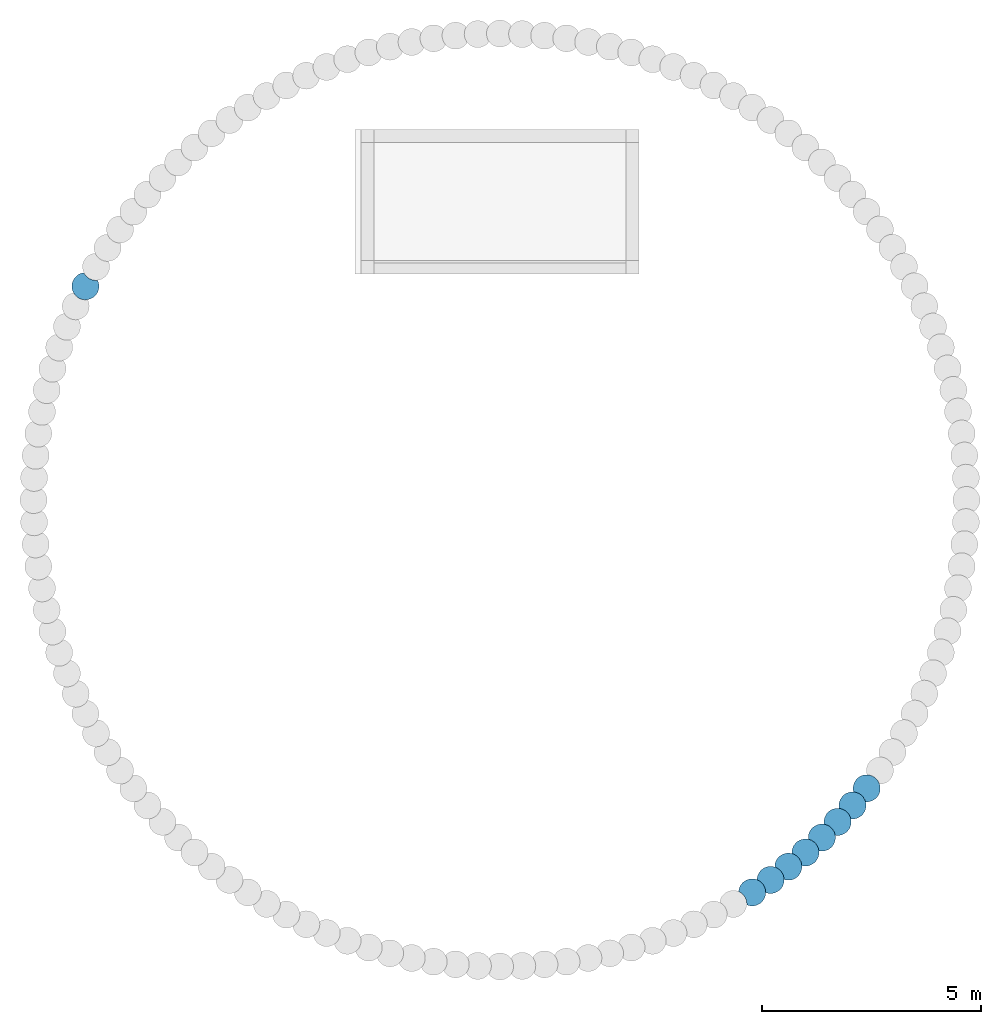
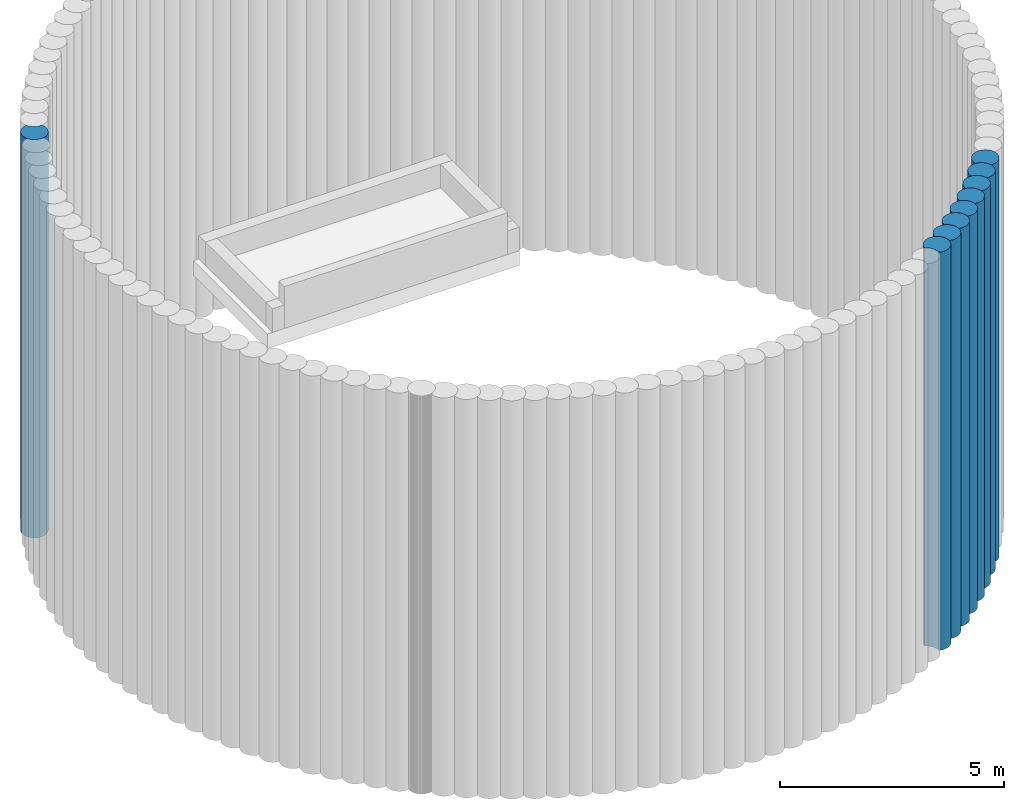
# One storey, part 7 of 16: 9 slabs.
"""IFC2X3 building model written with IfcOpenShell, lengths in centimetres."""

from ifc_helpers import new_model, entity, si_unit, converted_unit, derived_unit, direction, frame, frame_2d, origin, place, context, subcontext, project, spatial, polyline, circle_curve, parameter, trimmed, segment, composite_curve, outline, extrude, material, element, save


model = new_model("IFC2X3")

# Units and contexts
model_context = context("Model", 3, precision=0.001, world=origin(), true_north=direction((6.12303176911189e-17, 1.0)))
body_context = subcontext(model_context, "Body", "Model", "MODEL_VIEW")
ifc_project = project(units=[si_unit("LENGTHUNIT", "METRE", prefix="CENTI"), si_unit("AREAUNIT", "SQUARE_METRE"), si_unit("VOLUMEUNIT", "CUBIC_METRE"), converted_unit("PLANEANGLEUNIT", "DEGREE", entity("IfcRatioMeasure", 0.0174532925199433), si_unit("PLANEANGLEUNIT", "RADIAN"), dimensions=[0, 0, 0, 0, 0, 0, 0]), si_unit("MASSUNIT", "GRAM", prefix="KILO"), derived_unit("MASSDENSITYUNIT", [(si_unit("MASSUNIT", "GRAM", prefix="KILO"), 1), (si_unit("LENGTHUNIT", "METRE"), -3)]), si_unit("TIMEUNIT", "SECOND"), si_unit("FREQUENCYUNIT", "HERTZ"), si_unit("THERMODYNAMICTEMPERATUREUNIT", "DEGREE_CELSIUS"), derived_unit("THERMALTRANSMITTANCEUNIT", [(si_unit("MASSUNIT", "GRAM", prefix="KILO"), 1), (si_unit("THERMODYNAMICTEMPERATUREUNIT", "KELVIN"), -1), (si_unit("TIMEUNIT", "SECOND"), -3)]), derived_unit("VOLUMETRICFLOWRATEUNIT", [(si_unit("LENGTHUNIT", "METRE"), 3), (si_unit("TIMEUNIT", "SECOND"), -1)]), si_unit("ELECTRICCURRENTUNIT", "AMPERE"), si_unit("ELECTRICVOLTAGEUNIT", "VOLT"), si_unit("POWERUNIT", "WATT"), si_unit("FORCEUNIT", "NEWTON", prefix="KILO"), si_unit("ILLUMINANCEUNIT", "LUX"), si_unit("LUMINOUSFLUXUNIT", "LUMEN"), si_unit("LUMINOUSINTENSITYUNIT", "CANDELA"), derived_unit("USERDEFINED", [(si_unit("MASSUNIT", "GRAM", prefix="KILO"), -1), (si_unit("LENGTHUNIT", "METRE"), -2), (si_unit("TIMEUNIT", "SECOND"), 3), (si_unit("LUMINOUSFLUXUNIT", "LUMEN"), 1)]), derived_unit("LINEARVELOCITYUNIT", [(si_unit("LENGTHUNIT", "METRE"), 1), (si_unit("TIMEUNIT", "SECOND"), -1)]), si_unit("PRESSUREUNIT", "PASCAL"), derived_unit("USERDEFINED", [(si_unit("LENGTHUNIT", "METRE"), -2), (si_unit("MASSUNIT", "GRAM", prefix="KILO"), 1), (si_unit("TIMEUNIT", "SECOND"), -2)])], contexts=[model_context])

# Site, building, storey
site_placement = place(None, origin())
site = spatial("IfcSite", under=ifc_project, at=site_placement, Name="Default", CompositionType="ELEMENT")
building_placement = place(site_placement, origin())
building = spatial("IfcBuilding", under=site, at=building_placement, CompositionType="ELEMENT")
storey_placement = place(building_placement, frame((0.0, 0.0, -984.0)))
storey = spatial("IfcBuildingStorey", under=building, at=storey_placement, Name="Niveau Fond de fosse", CompositionType="ELEMENT", Elevation=-984.000000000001)

# Slabs
ifc_material = material(Name="Maçonnerie - Béton coulé sur place")
slab_1_placement = place(storey_placement, origin())
element("IfcSlab", 1, at=slab_1_placement, inside=storey, material=ifc_material, Name="Pieu béton - JBTP:600mm 2", ObjectType="Pieu béton - JBTP:600mm 2", PredefinedType="BASESLAB", context=body_context, shape_type="SweptSolid", body=[
    extrude(outline(composite_curve([segment(trimmed(circle_curve(frame_2d((1.18354648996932, -14.7318661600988), x_axis=(1.0, 0.0)), 30.9999999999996), [parameter(180.0)], [parameter(207.444291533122)], True, "PARAMETER"), True, "CONTINUOUS"), segment(trimmed(circle_curve(frame_2d((-22.2236636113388, -59.7464676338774), x_axis=(0.998867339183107, -0.047581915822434)), 30.9999999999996), [parameter(30.1715642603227)], [parameter(100.334884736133)], True, "PARAMETER"), False, "CONTINUOUS"), segment(trimmed(circle_curve(frame_2d((1.18354648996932, -14.7318661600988), x_axis=(1.0, 0.0)), 30.9999999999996), [parameter(277.607612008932)], [parameter(4.07110999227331e-13)], True, "PARAMETER"), True, "CONTINUOUS"), segment(polyline([(32.1835464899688, -14.7318661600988), (31.7068413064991, -9.31628922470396)]), True, "CONTINUOUS"), segment(polyline([(31.7068413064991, -9.31628922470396), (30.292145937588, -4.0693412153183)]), True, "CONTINUOUS"), segment(polyline([(30.292145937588, -4.0693412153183), (27.9815446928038, 0.850722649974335)]), True, "CONTINUOUS"), segment(polyline([(27.9815446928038, 0.850722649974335), (24.8625540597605, 5.27574740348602)]), True, "CONTINUOUS"), segment(polyline([(24.8625540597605, 5.27574740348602), (21.0196407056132, 9.09100869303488)]), True, "CONTINUOUS"), segment(polyline([(21.0196407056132, 9.09100869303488), (16.5713553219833, 12.1793831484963)]), True, "CONTINUOUS"), segment(polyline([(16.5713553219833, 12.1793831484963), (11.6531207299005, 14.4466878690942)]), True, "CONTINUOUS"), segment(polyline([(11.6531207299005, 14.4466878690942), (6.41465294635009, 15.8235838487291)]), True, "CONTINUOUS"), segment(polyline([(6.41465294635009, 15.8235838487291), (1.01547753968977, 16.2676782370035)]), True, "CONTINUOUS"), segment(polyline([(1.01547753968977, 16.2676782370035), (-4.38028118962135, 15.7646561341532)]), True, "CONTINUOUS"), segment(polyline([(-4.38028118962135, 15.7646561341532), (-9.56967916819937, 14.3433490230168)]), True, "CONTINUOUS"), segment(polyline([(-9.56967916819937, 14.3433490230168), (-14.4353628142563, 12.0459170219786)]), True, "CONTINUOUS"), segment(polyline([(-14.4353628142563, 12.0459170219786), (-18.8300295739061, 8.94210209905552)]), True, "CONTINUOUS"), segment(polyline([(-18.8300295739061, 8.94210209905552), (-22.6217091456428, 5.12536940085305)]), True, "CONTINUOUS"), segment(polyline([(-22.6217091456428, 5.12536940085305), (-25.6964633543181, 0.710448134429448)]), True, "CONTINUOUS"), segment(polyline([(-25.6964633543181, 0.710448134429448), (-27.9617477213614, -4.170056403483)]), True, "CONTINUOUS"), segment(polyline([(-27.9617477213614, -4.170056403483), (-29.3490361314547, -9.36890070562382)]), True, "CONTINUOUS"), segment(polyline([(-29.3490361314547, -9.36890070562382), (-29.8164535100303, -14.7318661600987)]), True, "CONTINUOUS")], self_intersect=False)), frame((582.933559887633, -883.557694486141, -300.0), z_axis=(0.0, 0.0, 1.0), x_axis=(0.85570479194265, -0.517464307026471, 0.0)), (0.0, 0.0, 1.0), 1084.0),
])
slab_2_placement = place(storey_placement, origin())
element("IfcSlab", 2, at=slab_2_placement, inside=storey, material=ifc_material, Name="Pieu béton - JBTP:600mm 2", ObjectType="Pieu béton - JBTP:600mm 2", PredefinedType="BASESLAB", context=body_context, shape_type="SweptSolid", body=[
    extrude(outline(composite_curve([segment(trimmed(circle_curve(frame_2d((1.18354648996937, -14.731866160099), x_axis=(1.0, 0.0)), 30.9999999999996), [parameter(180.0)], [parameter(207.444291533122)], True, "PARAMETER"), True, "CONTINUOUS"), segment(trimmed(circle_curve(frame_2d((-22.2236636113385, -59.7464676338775), x_axis=(0.99886733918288, -0.047581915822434)), 30.9999999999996), [parameter(30.1715642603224)], [parameter(100.334884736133)], True, "PARAMETER"), False, "CONTINUOUS"), segment(trimmed(circle_curve(frame_2d((1.18354648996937, -14.731866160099), x_axis=(1.0, 0.0)), 30.9999999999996), [parameter(277.607612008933)], [parameter(4.07110999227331e-13)], True, "PARAMETER"), True, "CONTINUOUS"), segment(polyline([(32.1835464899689, -14.731866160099), (31.7068413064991, -9.31628922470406)]), True, "CONTINUOUS"), segment(polyline([(31.7068413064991, -9.31628922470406), (30.2921459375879, -4.06934121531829)]), True, "CONTINUOUS"), segment(polyline([(30.2921459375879, -4.06934121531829), (27.9815446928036, 0.850722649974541)]), True, "CONTINUOUS"), segment(polyline([(27.9815446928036, 0.850722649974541), (24.8625540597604, 5.27574740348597)]), True, "CONTINUOUS"), segment(polyline([(24.8625540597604, 5.27574740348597), (21.0196407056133, 9.09100869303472)]), True, "CONTINUOUS"), segment(polyline([(21.0196407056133, 9.09100869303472), (16.5713553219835, 12.1793831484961)]), True, "CONTINUOUS"), segment(polyline([(16.5713553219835, 12.1793831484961), (11.6531207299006, 14.4466878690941)]), True, "CONTINUOUS"), segment(polyline([(11.6531207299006, 14.4466878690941), (6.41465294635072, 15.8235838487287)]), True, "CONTINUOUS"), segment(polyline([(6.41465294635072, 15.8235838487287), (1.01547753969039, 16.2676782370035)]), True, "CONTINUOUS"), segment(polyline([(1.01547753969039, 16.2676782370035), (-4.38028118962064, 15.7646561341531)]), True, "CONTINUOUS"), segment(polyline([(-4.38028118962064, 15.7646561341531), (-9.56967916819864, 14.3433490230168)]), True, "CONTINUOUS"), segment(polyline([(-9.56967916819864, 14.3433490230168), (-14.4353628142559, 12.0459170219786)]), True, "CONTINUOUS"), segment(polyline([(-14.4353628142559, 12.0459170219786), (-18.8300295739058, 8.94210209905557)]), True, "CONTINUOUS"), segment(polyline([(-18.8300295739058, 8.94210209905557), (-22.6217091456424, 5.12536940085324)]), True, "CONTINUOUS"), segment(polyline([(-22.6217091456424, 5.12536940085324), (-25.6964633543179, 0.710448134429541)]), True, "CONTINUOUS"), segment(polyline([(-25.6964633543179, 0.710448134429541), (-27.9617477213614, -4.17005640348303)]), True, "CONTINUOUS"), segment(polyline([(-27.9617477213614, -4.17005640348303), (-29.3490361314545, -9.36890070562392)]), True, "CONTINUOUS"), segment(polyline([(-29.3490361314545, -9.36890070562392), (-29.8164535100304, -14.7318661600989)]), True, "CONTINUOUS")], self_intersect=False)), frame((624.314661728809, -854.819827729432, -300.0), z_axis=(0.0, 0.0, 1.0), x_axis=(0.879357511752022, -0.476162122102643, 0.0)), (0.0, 0.0, 1.0), 1084.0),
])
slab_3_placement = place(storey_placement, origin())
element("IfcSlab", 3, at=slab_3_placement, inside=storey, material=ifc_material, Name="Pieu béton - JBTP:600mm 2", ObjectType="Pieu béton - JBTP:600mm 2", PredefinedType="BASESLAB", context=body_context, shape_type="SweptSolid", body=[
    extrude(outline(composite_curve([segment(trimmed(circle_curve(frame_2d((1.18354648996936, -14.7318661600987), x_axis=(1.0, 0.0)), 30.9999999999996), [parameter(180.0)], [parameter(207.444291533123)], True, "PARAMETER"), True, "CONTINUOUS"), segment(trimmed(circle_curve(frame_2d((-22.2236636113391, -59.7464676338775), x_axis=(0.998867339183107, -0.0475819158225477)), 30.9999999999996), [parameter(30.1715642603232)], [parameter(100.334884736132)], True, "PARAMETER"), False, "CONTINUOUS"), segment(trimmed(circle_curve(frame_2d((1.18354648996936, -14.7318661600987), x_axis=(1.0, 0.0)), 30.9999999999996), [parameter(277.607612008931)], [parameter(4.07110999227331e-13)], True, "PARAMETER"), True, "CONTINUOUS"), segment(polyline([(32.1835464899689, -14.7318661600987), (31.7068413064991, -9.31628922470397)]), True, "CONTINUOUS"), segment(polyline([(31.7068413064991, -9.31628922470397), (30.2921459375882, -4.06934121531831)]), True, "CONTINUOUS"), segment(polyline([(30.2921459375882, -4.06934121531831), (27.9815446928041, 0.850722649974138)]), True, "CONTINUOUS"), segment(polyline([(27.9815446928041, 0.850722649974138), (24.8625540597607, 5.27574740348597)]), True, "CONTINUOUS"), segment(polyline([(24.8625540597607, 5.27574740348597), (21.0196407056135, 9.09100869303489)]), True, "CONTINUOUS"), segment(polyline([(21.0196407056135, 9.09100869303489), (16.5713553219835, 12.1793831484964)]), True, "CONTINUOUS"), segment(polyline([(16.5713553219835, 12.1793831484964), (11.6531207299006, 14.4466878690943)]), True, "CONTINUOUS"), segment(polyline([(11.6531207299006, 14.4466878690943), (6.4146529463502, 15.8235838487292)]), True, "CONTINUOUS"), segment(polyline([(6.4146529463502, 15.8235838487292), (1.01547753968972, 16.2676782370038)]), True, "CONTINUOUS"), segment(polyline([(1.01547753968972, 16.2676782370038), (-4.38028118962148, 15.7646561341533)]), True, "CONTINUOUS"), segment(polyline([(-4.38028118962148, 15.7646561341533), (-9.56967916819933, 14.3433490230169)]), True, "CONTINUOUS"), segment(polyline([(-9.56967916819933, 14.3433490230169), (-14.4353628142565, 12.0459170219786)]), True, "CONTINUOUS"), segment(polyline([(-14.4353628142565, 12.0459170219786), (-18.8300295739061, 8.94210209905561)]), True, "CONTINUOUS"), segment(polyline([(-18.8300295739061, 8.94210209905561), (-22.6217091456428, 5.12536940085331)]), True, "CONTINUOUS"), segment(polyline([(-22.6217091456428, 5.12536940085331), (-25.696463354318, 0.710448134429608)]), True, "CONTINUOUS"), segment(polyline([(-25.696463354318, 0.710448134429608), (-27.9617477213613, -4.1700564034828)]), True, "CONTINUOUS"), segment(polyline([(-27.9617477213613, -4.1700564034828), (-29.3490361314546, -9.36890070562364)]), True, "CONTINUOUS"), segment(polyline([(-29.3490361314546, -9.36890070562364), (-29.8164535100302, -14.7318661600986)]), True, "CONTINUOUS")], self_intersect=False)), frame((664.281490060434, -824.145519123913, -300.0), z_axis=(0.0, 0.0, 1.0), x_axis=(0.901018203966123, -0.433781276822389, 0.0)), (0.0, 0.0, 1.0), 1084.0),
])
slab_4_placement = place(storey_placement, origin())
element("IfcSlab", 4, at=slab_4_placement, inside=storey, material=ifc_material, Name="Pieu béton - JBTP:600mm 2", ObjectType="Pieu béton - JBTP:600mm 2", PredefinedType="BASESLAB", context=body_context, shape_type="SweptSolid", body=[
    extrude(outline(composite_curve([segment(trimmed(circle_curve(frame_2d((1.18354648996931, -14.7318661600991), x_axis=(1.0, 0.0)), 30.9999999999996), [parameter(180.0)], [parameter(207.444291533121)], True, "PARAMETER"), True, "CONTINUOUS"), segment(trimmed(circle_curve(frame_2d((-22.2236636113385, -59.7464676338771), x_axis=(0.998867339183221, -0.0475819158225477)), 30.9999999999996), [parameter(30.1715642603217)], [parameter(100.334884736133)], True, "PARAMETER"), False, "CONTINUOUS"), segment(trimmed(circle_curve(frame_2d((1.18354648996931, -14.7318661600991), x_axis=(1.0, 0.0)), 30.9999999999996), [parameter(277.607612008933)], [parameter(4.07110999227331e-13)], True, "PARAMETER"), True, "CONTINUOUS"), segment(polyline([(32.1835464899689, -14.7318661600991), (31.7068413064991, -9.31628922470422)]), True, "CONTINUOUS"), segment(polyline([(31.7068413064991, -9.31628922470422), (30.2921459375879, -4.06934121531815)]), True, "CONTINUOUS"), segment(polyline([(30.2921459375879, -4.06934121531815), (27.9815446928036, 0.85072264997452)]), True, "CONTINUOUS"), segment(polyline([(27.9815446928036, 0.85072264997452), (24.8625540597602, 5.27574740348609)]), True, "CONTINUOUS"), segment(polyline([(24.8625540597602, 5.27574740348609), (21.0196407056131, 9.09100869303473)]), True, "CONTINUOUS"), segment(polyline([(21.0196407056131, 9.09100869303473), (16.5713553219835, 12.1793831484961)]), True, "CONTINUOUS"), segment(polyline([(16.5713553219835, 12.1793831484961), (11.6531207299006, 14.446687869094)]), True, "CONTINUOUS"), segment(polyline([(11.6531207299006, 14.446687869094), (6.41465294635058, 15.8235838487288)]), True, "CONTINUOUS"), segment(polyline([(6.41465294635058, 15.8235838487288), (1.01547753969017, 16.2676782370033)]), True, "CONTINUOUS"), segment(polyline([(1.01547753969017, 16.2676782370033), (-4.38028118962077, 15.764656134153)]), True, "CONTINUOUS"), segment(polyline([(-4.38028118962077, 15.764656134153), (-9.56967916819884, 14.3433490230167)]), True, "CONTINUOUS"), segment(polyline([(-9.56967916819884, 14.3433490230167), (-14.435362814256, 12.0459170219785)]), True, "CONTINUOUS"), segment(polyline([(-14.435362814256, 12.0459170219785), (-18.8300295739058, 8.94210209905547)]), True, "CONTINUOUS"), segment(polyline([(-18.8300295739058, 8.94210209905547), (-22.6217091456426, 5.12536940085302)]), True, "CONTINUOUS"), segment(polyline([(-22.6217091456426, 5.12536940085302), (-25.6964633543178, 0.710448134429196)]), True, "CONTINUOUS"), segment(polyline([(-25.6964633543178, 0.710448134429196), (-27.9617477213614, -4.1700564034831)]), True, "CONTINUOUS"), segment(polyline([(-27.9617477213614, -4.1700564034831), (-29.3490361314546, -9.36890070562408)]), True, "CONTINUOUS"), segment(polyline([(-29.3490361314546, -9.36890070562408), (-29.8164535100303, -14.7318661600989)]), True, "CONTINUOUS")], self_intersect=False)), frame((702.743507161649, -791.604255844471, -300.0), z_axis=(0.0, 0.0, 1.0), x_axis=(0.920637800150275, -0.390417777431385, 0.0)), (0.0, 0.0, 1.0), 1084.0),
])
slab_5_placement = place(storey_placement, origin())
element("IfcSlab", 5, at=slab_5_placement, inside=storey, material=ifc_material, Name="Pieu béton - JBTP:600mm 2", ObjectType="Pieu béton - JBTP:600mm 2", PredefinedType="BASESLAB", context=body_context, shape_type="SweptSolid", body=[
    extrude(outline(composite_curve([segment(trimmed(circle_curve(frame_2d((1.1835464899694, -14.7318661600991), x_axis=(1.0, 0.0)), 30.9999999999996), [parameter(180.0)], [parameter(207.444291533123)], True, "PARAMETER"), True, "CONTINUOUS"), segment(trimmed(circle_curve(frame_2d((-22.2236636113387, -59.7464676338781), x_axis=(0.998867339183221, -0.0475819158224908)), 30.9999999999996), [parameter(30.1715642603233)], [parameter(100.334884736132)], True, "PARAMETER"), False, "CONTINUOUS"), segment(trimmed(circle_curve(frame_2d((1.1835464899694, -14.7318661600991), x_axis=(1.0, 0.0)), 30.9999999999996), [parameter(277.607612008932)], [parameter(4.07110999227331e-13)], True, "PARAMETER"), True, "CONTINUOUS"), segment(polyline([(32.1835464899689, -14.7318661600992), (31.7068413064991, -9.31628922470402)]), True, "CONTINUOUS"), segment(polyline([(31.7068413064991, -9.31628922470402), (30.2921459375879, -4.06934121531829)]), True, "CONTINUOUS"), segment(polyline([(30.2921459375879, -4.06934121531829), (27.9815446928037, 0.850722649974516)]), True, "CONTINUOUS"), segment(polyline([(27.9815446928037, 0.850722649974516), (24.8625540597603, 5.2757474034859)]), True, "CONTINUOUS"), segment(polyline([(24.8625540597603, 5.2757474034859), (21.0196407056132, 9.09100869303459)]), True, "CONTINUOUS"), segment(polyline([(21.0196407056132, 9.09100869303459), (16.5713553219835, 12.1793831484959)]), True, "CONTINUOUS"), segment(polyline([(16.5713553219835, 12.1793831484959), (11.6531207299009, 14.446687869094)]), True, "CONTINUOUS"), segment(polyline([(11.6531207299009, 14.446687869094), (6.41465294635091, 15.8235838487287)]), True, "CONTINUOUS"), segment(polyline([(6.41465294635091, 15.8235838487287), (1.01547753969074, 16.2676782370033)]), True, "CONTINUOUS"), segment(polyline([(1.01547753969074, 16.2676782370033), (-4.38028118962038, 15.7646561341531)]), True, "CONTINUOUS"), segment(polyline([(-4.38028118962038, 15.7646561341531), (-9.56967916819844, 14.3433490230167)]), True, "CONTINUOUS"), segment(polyline([(-9.56967916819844, 14.3433490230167), (-14.4353628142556, 12.0459170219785)]), True, "CONTINUOUS"), segment(polyline([(-14.4353628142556, 12.0459170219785), (-18.8300295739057, 8.9421020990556)]), True, "CONTINUOUS"), segment(polyline([(-18.8300295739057, 8.9421020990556), (-22.6217091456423, 5.12536940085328)]), True, "CONTINUOUS"), segment(polyline([(-22.6217091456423, 5.12536940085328), (-25.6964633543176, 0.710448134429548)]), True, "CONTINUOUS"), segment(polyline([(-25.6964633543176, 0.710448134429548), (-27.9617477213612, -4.17005640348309)]), True, "CONTINUOUS"), segment(polyline([(-27.9617477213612, -4.17005640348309), (-29.3490361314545, -9.36890070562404)]), True, "CONTINUOUS"), segment(polyline([(-29.3490361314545, -9.36890070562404), (-29.8164535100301, -14.731866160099)]), True, "CONTINUOUS")], self_intersect=False)), frame((739.613584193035, -757.269754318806, -300.0), z_axis=(0.0, 0.0, 1.0), x_axis=(0.938171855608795, -0.34616985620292, 0.0)), (0.0, 0.0, 1.0), 1084.0),
])
slab_6_placement = place(storey_placement, origin())
element("IfcSlab", 6, at=slab_6_placement, inside=storey, material=ifc_material, Name="Pieu béton - JBTP:600mm 2", ObjectType="Pieu béton - JBTP:600mm 2", PredefinedType="BASESLAB", context=body_context, shape_type="SweptSolid", body=[
    extrude(outline(composite_curve([segment(trimmed(circle_curve(frame_2d((1.18354648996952, -14.7318661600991), x_axis=(1.0, 0.0)), 30.9999999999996), [parameter(180.0)], [parameter(207.444291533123)], True, "PARAMETER"), True, "CONTINUOUS"), segment(trimmed(circle_curve(frame_2d((-22.223663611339, -59.7464676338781), x_axis=(0.998867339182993, -0.0475819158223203)), 30.9999999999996), [parameter(30.1715642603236)], [parameter(100.334884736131)], True, "PARAMETER"), False, "CONTINUOUS"), segment(trimmed(circle_curve(frame_2d((1.18354648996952, -14.7318661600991), x_axis=(1.0, 0.0)), 30.9999999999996), [parameter(277.607612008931)], [parameter(4.07110999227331e-13)], True, "PARAMETER"), True, "CONTINUOUS"), segment(polyline([(32.183546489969, -14.731866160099), (31.7068413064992, -9.31628922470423)]), True, "CONTINUOUS"), segment(polyline([(31.7068413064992, -9.31628922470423), (30.2921459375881, -4.06934121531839)]), True, "CONTINUOUS"), segment(polyline([(30.2921459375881, -4.06934121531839), (27.981544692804, 0.85072264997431)]), True, "CONTINUOUS"), segment(polyline([(27.981544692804, 0.85072264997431), (24.8625540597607, 5.27574740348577)]), True, "CONTINUOUS"), segment(polyline([(24.8625540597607, 5.27574740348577), (21.0196407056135, 9.09100869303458)]), True, "CONTINUOUS"), segment(polyline([(21.0196407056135, 9.09100869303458), (16.5713553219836, 12.179383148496)]), True, "CONTINUOUS"), segment(polyline([(16.5713553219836, 12.179383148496), (11.653120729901, 14.446687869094)]), True, "CONTINUOUS"), segment(polyline([(11.653120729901, 14.446687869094), (6.41465294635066, 15.8235838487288)]), True, "CONTINUOUS"), segment(polyline([(6.41465294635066, 15.8235838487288), (1.01547753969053, 16.2676782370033)]), True, "CONTINUOUS"), segment(polyline([(1.01547753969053, 16.2676782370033), (-4.38028118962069, 15.7646561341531)]), True, "CONTINUOUS"), segment(polyline([(-4.38028118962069, 15.7646561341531), (-9.56967916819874, 14.3433490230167)]), True, "CONTINUOUS"), segment(polyline([(-9.56967916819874, 14.3433490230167), (-14.4353628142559, 12.0459170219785)]), True, "CONTINUOUS"), segment(polyline([(-14.4353628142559, 12.0459170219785), (-18.8300295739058, 8.94210209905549)]), True, "CONTINUOUS"), segment(polyline([(-18.8300295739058, 8.94210209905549), (-22.6217091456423, 5.12536940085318)]), True, "CONTINUOUS"), segment(polyline([(-22.6217091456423, 5.12536940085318), (-25.6964633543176, 0.71044813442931)]), True, "CONTINUOUS"), segment(polyline([(-25.6964633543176, 0.71044813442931), (-27.9617477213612, -4.17005640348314)]), True, "CONTINUOUS"), segment(polyline([(-27.9617477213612, -4.17005640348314), (-29.3490361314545, -9.36890070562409)]), True, "CONTINUOUS"), segment(polyline([(-29.3490361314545, -9.36890070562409), (-29.8164535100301, -14.7318661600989)]), True, "CONTINUOUS")], self_intersect=False)), frame((774.808198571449, -721.219793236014, -300.0), z_axis=(0.0, 0.0, 1.0), x_axis=(0.953580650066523, -0.301137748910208, 0.0)), (0.0, 0.0, 1.0), 1084.0),
])
slab_7_placement = place(storey_placement, origin())
element("IfcSlab", 7, at=slab_7_placement, inside=storey, material=ifc_material, Name="Pieu béton - JBTP:600mm 2", ObjectType="Pieu béton - JBTP:600mm 2", PredefinedType="BASESLAB", context=body_context, shape_type="SweptSolid", body=[
    extrude(outline(composite_curve([segment(trimmed(circle_curve(frame_2d((1.18354648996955, -14.7318661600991), x_axis=(1.0, 0.0)), 30.9999999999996), [parameter(180.0)], [parameter(207.444291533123)], True, "PARAMETER"), True, "CONTINUOUS"), segment(trimmed(circle_curve(frame_2d((-22.2236636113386, -59.7464676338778), x_axis=(0.998867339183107, -0.047581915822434)), 30.9999999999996), [parameter(30.1715642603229)], [parameter(100.334884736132)], True, "PARAMETER"), False, "CONTINUOUS"), segment(trimmed(circle_curve(frame_2d((1.18354648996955, -14.7318661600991), x_axis=(1.0, 0.0)), 30.9999999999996), [parameter(277.607612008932)], [parameter(4.07110999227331e-13)], True, "PARAMETER"), True, "CONTINUOUS"), segment(polyline([(32.1835464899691, -14.731866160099), (31.7068413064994, -9.31628922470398)]), True, "CONTINUOUS"), segment(polyline([(31.7068413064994, -9.31628922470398), (30.2921459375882, -4.06934121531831)]), True, "CONTINUOUS"), segment(polyline([(30.2921459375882, -4.06934121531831), (27.9815446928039, 0.850722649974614)]), True, "CONTINUOUS"), segment(polyline([(27.9815446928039, 0.850722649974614), (24.8625540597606, 5.27574740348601)]), True, "CONTINUOUS"), segment(polyline([(24.8625540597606, 5.27574740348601), (21.0196407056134, 9.0910086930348)]), True, "CONTINUOUS"), segment(polyline([(21.0196407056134, 9.0910086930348), (16.5713553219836, 12.1793831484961)]), True, "CONTINUOUS"), segment(polyline([(16.5713553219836, 12.1793831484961), (11.6531207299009, 14.446687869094)]), True, "CONTINUOUS"), segment(polyline([(11.6531207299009, 14.446687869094), (6.41465294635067, 15.8235838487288)]), True, "CONTINUOUS"), segment(polyline([(6.41465294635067, 15.8235838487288), (1.01547753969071, 16.2676782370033)]), True, "CONTINUOUS"), segment(polyline([(1.01547753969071, 16.2676782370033), (-4.38028118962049, 15.7646561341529)]), True, "CONTINUOUS"), segment(polyline([(-4.38028118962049, 15.7646561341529), (-9.56967916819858, 14.3433490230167)]), True, "CONTINUOUS"), segment(polyline([(-9.56967916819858, 14.3433490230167), (-14.4353628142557, 12.0459170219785)]), True, "CONTINUOUS"), segment(polyline([(-14.4353628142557, 12.0459170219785), (-18.8300295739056, 8.94210209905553)]), True, "CONTINUOUS"), segment(polyline([(-18.8300295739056, 8.94210209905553), (-22.6217091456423, 5.12536940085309)]), True, "CONTINUOUS"), segment(polyline([(-22.6217091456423, 5.12536940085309), (-25.6964633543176, 0.710448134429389)]), True, "CONTINUOUS"), segment(polyline([(-25.6964633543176, 0.710448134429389), (-27.961747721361, -4.17005640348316)]), True, "CONTINUOUS"), segment(polyline([(-27.961747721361, -4.17005640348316), (-29.3490361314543, -9.36890070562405)]), True, "CONTINUOUS"), segment(polyline([(-29.3490361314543, -9.36890070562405), (-29.81645351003, -14.731866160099)]), True, "CONTINUOUS")], self_intersect=False)), frame((808.247623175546, -683.536037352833, -300.0), z_axis=(0.0, 0.0, 1.0), x_axis=(0.966829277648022, -0.255423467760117, 0.0)), (0.0, 0.0, 1.0), 1084.0),
])
slab_8_placement = place(storey_placement, origin())
element("IfcSlab", 8, at=slab_8_placement, inside=storey, material=ifc_material, Name="Pieu béton - JBTP:600mm 2", ObjectType="Pieu béton - JBTP:600mm 2", PredefinedType="BASESLAB", context=body_context, shape_type="SweptSolid", body=[
    extrude(outline(composite_curve([segment(trimmed(circle_curve(frame_2d((1.1835464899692, -14.7318661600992), x_axis=(1.0, 0.0)), 30.9999999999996), [parameter(180.0)], [parameter(207.444291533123)], True, "PARAMETER"), True, "CONTINUOUS"), segment(trimmed(circle_curve(frame_2d((-22.223663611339, -59.7464676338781), x_axis=(0.998867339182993, -0.0475819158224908)), 30.9999999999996), [parameter(30.1715642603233)], [parameter(100.334884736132)], True, "PARAMETER"), False, "CONTINUOUS"), segment(trimmed(circle_curve(frame_2d((1.1835464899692, -14.7318661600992), x_axis=(1.0, 0.0)), 30.9999999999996), [parameter(277.607612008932)], [parameter(4.07110999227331e-13)], True, "PARAMETER"), True, "CONTINUOUS"), segment(polyline([(32.1835464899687, -14.7318661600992), (31.706841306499, -9.31628922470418)]), True, "CONTINUOUS"), segment(polyline([(31.706841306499, -9.31628922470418), (30.2921459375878, -4.06934121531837)]), True, "CONTINUOUS"), segment(polyline([(30.2921459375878, -4.06934121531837), (27.9815446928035, 0.850722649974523)]), True, "CONTINUOUS"), segment(polyline([(27.9815446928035, 0.850722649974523), (24.8625540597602, 5.27574740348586)]), True, "CONTINUOUS"), segment(polyline([(24.8625540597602, 5.27574740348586), (21.0196407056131, 9.09100869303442)]), True, "CONTINUOUS"), segment(polyline([(21.0196407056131, 9.09100869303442), (16.5713553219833, 12.1793831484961)]), True, "CONTINUOUS"), segment(polyline([(16.5713553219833, 12.1793831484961), (11.6531207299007, 14.4466878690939)]), True, "CONTINUOUS"), segment(polyline([(11.6531207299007, 14.4466878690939), (6.41465294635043, 15.8235838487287)]), True, "CONTINUOUS"), segment(polyline([(6.41465294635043, 15.8235838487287), (1.0154775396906, 16.2676782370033)]), True, "CONTINUOUS"), segment(polyline([(1.0154775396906, 16.2676782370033), (-4.38028118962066, 15.764656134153)]), True, "CONTINUOUS"), segment(polyline([(-4.38028118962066, 15.764656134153), (-9.56967916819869, 14.3433490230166)]), True, "CONTINUOUS"), segment(polyline([(-9.56967916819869, 14.3433490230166), (-14.4353628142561, 12.0459170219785)]), True, "CONTINUOUS"), segment(polyline([(-14.4353628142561, 12.0459170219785), (-18.8300295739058, 8.94210209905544)]), True, "CONTINUOUS"), segment(polyline([(-18.8300295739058, 8.94210209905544), (-22.6217091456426, 5.12536940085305)]), True, "CONTINUOUS"), segment(polyline([(-22.6217091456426, 5.12536940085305), (-25.6964633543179, 0.71044813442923)]), True, "CONTINUOUS"), segment(polyline([(-25.6964633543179, 0.71044813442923), (-27.9617477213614, -4.17005640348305)]), True, "CONTINUOUS"), segment(polyline([(-27.9617477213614, -4.17005640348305), (-29.3490361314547, -9.36890070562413)]), True, "CONTINUOUS"), segment(polyline([(-29.3490361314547, -9.36890070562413), (-29.8164535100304, -14.7318661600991)]), True, "CONTINUOUS")], self_intersect=False)), frame((839.856106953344, -644.303852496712, -300.0), z_axis=(0.0, 0.0, 1.0), x_axis=(0.977887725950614, -0.209130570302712, 0.0)), (0.0, 0.0, 1.0), 1084.0),
])
slab_9_placement = place(storey_placement, origin())
element("IfcSlab", 9, at=slab_9_placement, inside=storey, material=ifc_material, Name="Pieu béton - JBTP:600mm 2", ObjectType="Pieu béton - JBTP:600mm 2", PredefinedType="BASESLAB", context=body_context, shape_type="SweptSolid", body=[
    extrude(outline(composite_curve([segment(trimmed(circle_curve(frame_2d((1.18354648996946, -14.7318661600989), x_axis=(1.0, 0.0)), 30.9999999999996), [parameter(180.0)], [parameter(207.444291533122)], True, "PARAMETER"), True, "CONTINUOUS"), segment(trimmed(circle_curve(frame_2d((-22.2236636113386, -59.7464676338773), x_axis=(0.998867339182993, -0.0475819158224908)), 30.9999999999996), [parameter(30.1715642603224)], [parameter(100.334884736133)], True, "PARAMETER"), False, "CONTINUOUS"), segment(trimmed(circle_curve(frame_2d((1.18354648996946, -14.7318661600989), x_axis=(1.0, 0.0)), 30.9999999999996), [parameter(277.607612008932)], [parameter(4.07110999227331e-13)], True, "PARAMETER"), True, "CONTINUOUS"), segment(polyline([(32.183546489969, -14.7318661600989), (31.7068413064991, -9.31628922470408)]), True, "CONTINUOUS"), segment(polyline([(31.7068413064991, -9.31628922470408), (30.2921459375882, -4.06934121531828)]), True, "CONTINUOUS"), segment(polyline([(30.2921459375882, -4.06934121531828), (27.981544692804, 0.850722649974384)]), True, "CONTINUOUS"), segment(polyline([(27.981544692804, 0.850722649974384), (24.8625540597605, 5.27574740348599)]), True, "CONTINUOUS"), segment(polyline([(24.8625540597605, 5.27574740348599), (21.0196407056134, 9.09100869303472)]), True, "CONTINUOUS"), segment(polyline([(21.0196407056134, 9.09100869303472), (16.5713553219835, 12.1793831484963)]), True, "CONTINUOUS"), segment(polyline([(16.5713553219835, 12.1793831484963), (11.6531207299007, 14.4466878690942)]), True, "CONTINUOUS"), segment(polyline([(11.6531207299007, 14.4466878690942), (6.41465294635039, 15.823583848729)]), True, "CONTINUOUS"), segment(polyline([(6.41465294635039, 15.823583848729), (1.01547753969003, 16.2676782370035)]), True, "CONTINUOUS"), segment(polyline([(1.01547753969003, 16.2676782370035), (-4.38028118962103, 15.7646561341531)]), True, "CONTINUOUS"), segment(polyline([(-4.38028118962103, 15.7646561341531), (-9.569679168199, 14.3433490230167)]), True, "CONTINUOUS"), segment(polyline([(-9.569679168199, 14.3433490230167), (-14.435362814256, 12.0459170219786)]), True, "CONTINUOUS"), segment(polyline([(-14.435362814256, 12.0459170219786), (-18.8300295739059, 8.94210209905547)]), True, "CONTINUOUS"), segment(polyline([(-18.8300295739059, 8.94210209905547), (-22.6217091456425, 5.12536940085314)]), True, "CONTINUOUS"), segment(polyline([(-22.6217091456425, 5.12536940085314), (-25.6964633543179, 0.710448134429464)]), True, "CONTINUOUS"), segment(polyline([(-25.6964633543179, 0.710448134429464), (-27.9617477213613, -4.17005640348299)]), True, "CONTINUOUS"), segment(polyline([(-27.9617477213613, -4.17005640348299), (-29.3490361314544, -9.3689007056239)]), True, "CONTINUOUS"), segment(polyline([(-29.3490361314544, -9.3689007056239), (-29.8164535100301, -14.7318661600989)]), True, "CONTINUOUS")], self_intersect=False)), frame((-946.614118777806, 473.716629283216, -300.0), z_axis=(0.0, 0.0, 1.0), x_axis=(-0.999794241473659, 0.0202848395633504, 0.0)), (0.0, 0.0, 1.0), 1084.0),
])

save(model, "model.ifc")
